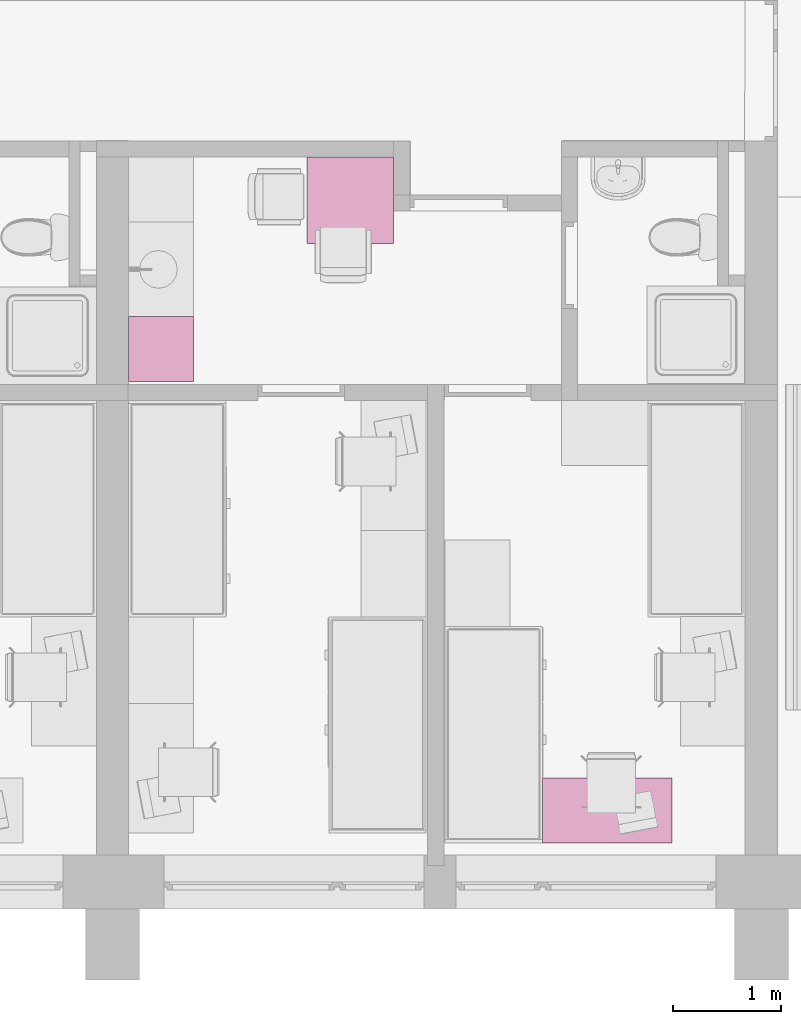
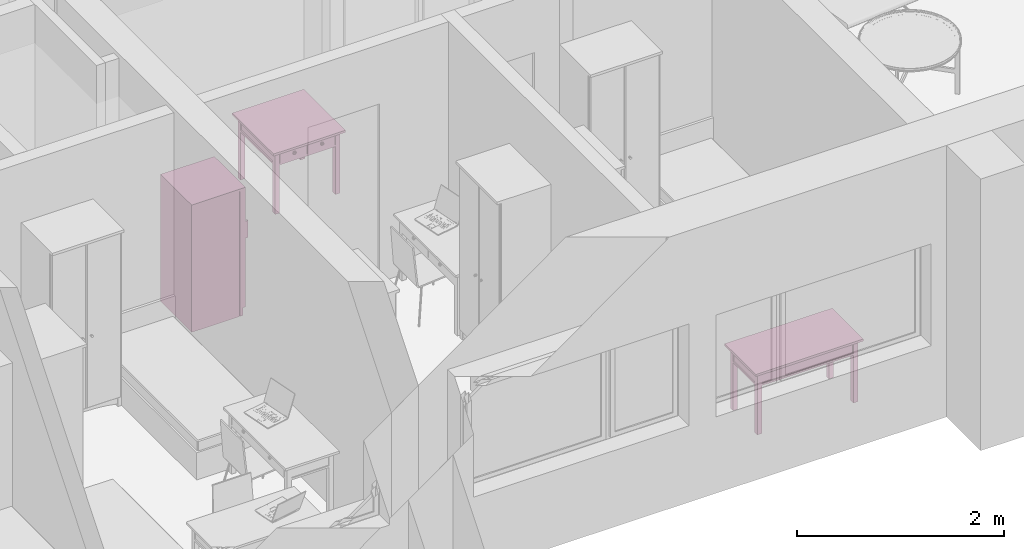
# One storey, part 107 of 165: 3 furnishings.
"""IFC2X3 building model written with IfcOpenShell, lengths in millimetres."""

from ifc_helpers import new_model, entity, si_unit, converted_unit, money_unit, direction, frame, origin_with_axes, place, context, subcontext, project, spatial, open_shell, faceted_brep, surface_model, source, transform, mapped, material, material_list, type_object, element, save


model = new_model("IFC2X3")

# Units and contexts
model_context = context("Model", 3, precision=1e-05, world=origin_with_axes(), true_north=direction((0.0, 1.0)))
body_context = subcontext(model_context, "Body", "Model", "MODEL_VIEW")
ifc_project = project(units=[si_unit("LENGTHUNIT", "METRE", prefix="MILLI"), si_unit("AREAUNIT", "SQUARE_METRE"), si_unit("VOLUMEUNIT", "CUBIC_METRE"), converted_unit("PLANEANGLEUNIT", "DEGREE", entity("IfcPlaneAngleMeasure", 0.0174532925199), si_unit("PLANEANGLEUNIT", "RADIAN"), dimensions=[0, 0, 0, 0, 0, 0, 0]), si_unit("SOLIDANGLEUNIT", "STERADIAN"), money_unit("USD"), converted_unit("TIMEUNIT", "Year", entity("IfcTimeMeasure", 31556926.0), si_unit("TIMEUNIT", "SECOND"), dimensions=[0, 0, 0, 0, 0, 0, 0]), si_unit("MASSUNIT", "GRAM"), si_unit("THERMODYNAMICTEMPERATUREUNIT", "DEGREE_CELSIUS"), si_unit("LUMINOUSINTENSITYUNIT", "LUMEN")], contexts=[model_context])

# Site, building, storey
site_placement = place(None, origin_with_axes())
site = spatial("IfcSite", under=ifc_project, at=site_placement, Name="Site", CompositionType="ELEMENT")
building_placement = place(site_placement, origin_with_axes())
building = spatial("IfcBuilding", under=site, at=building_placement, Name="Building", CompositionType="ELEMENT")
storey_placement = place(building_placement, frame((0.0, 0.0, 6300.0), z_axis=(0.0, 0.0, 1.0), x_axis=(1.0, 0.0, 0.0)))
storey = spatial("IfcBuildingStorey", under=building, at=storey_placement, Name="4KORRUS", CompositionType="ELEMENT", Elevation=6300.0)

# Furnishings
ifc_material = material(Name="Background")
ifc_material_list = material_list([ifc_material])
furnishing_element_type_1 = type_object("IfcFurnishingElementType", Name="Rectangular Table 01 19")
shared_shape_1 = source(origin_with_axes(), body_context, "Body", "Brep", [
    faceted_brep([(90.0, 40.0, 0.0), (40.0, 40.0, 0.0), (40.0, 90.0, 0.0), (90.0, 90.0, 0.0), (90.0, 40.0, 725.0), (40.0, 40.0, 725.0), (40.0, 90.0, 725.0), (90.0, 90.0, 725.0)], [[[0, 1, 2, 3]], [[1, 0, 4, 5]], [[2, 1, 5, 6]], [[3, 2, 6, 7]], [[0, 3, 7, 4]], [[5, 4, 7, 6]]]),
    faceted_brep([(1160.0, 40.0, 0.0), (1110.0, 40.0, 0.0), (1110.0, 90.0, 0.0), (1160.0, 90.0, 0.0), (1160.0, 40.0, 725.0), (1110.0, 40.0, 725.0), (1110.0, 90.0, 725.0), (1160.0, 90.0, 725.0)], [[[0, 1, 2, 3]], [[1, 0, 4, 5]], [[2, 1, 5, 6]], [[3, 2, 6, 7]], [[0, 3, 7, 4]], [[5, 4, 7, 6]]]),
    faceted_brep([(90.0, 510.0, 0.0), (40.0, 510.0, 0.0), (40.0, 560.0, 0.0), (90.0, 560.0, 0.0), (90.0, 510.0, 725.0), (40.0, 510.0, 725.0), (40.0, 560.0, 725.0), (90.0, 560.0, 725.0)], [[[0, 1, 2, 3]], [[1, 0, 4, 5]], [[2, 1, 5, 6]], [[3, 2, 6, 7]], [[0, 3, 7, 4]], [[5, 4, 7, 6]]]),
    faceted_brep([(1160.0, 510.0, 0.0), (1110.0, 510.0, 0.0), (1110.0, 560.0, 0.0), (1160.0, 560.0, 0.0), (1160.0, 510.0, 725.0), (1110.0, 510.0, 725.0), (1110.0, 560.0, 725.0), (1160.0, 560.0, 725.0)], [[[0, 1, 2, 3]], [[1, 0, 4, 5]], [[2, 1, 5, 6]], [[3, 2, 6, 7]], [[0, 3, 7, 4]], [[5, 4, 7, 6]]]),
    faceted_brep([(1160.0, 40.0, 565.0), (40.0, 40.0, 565.0), (40.0, 560.0, 565.0), (1160.0, 560.0, 565.0), (1160.0, 40.0, 585.0), (40.0, 40.0, 585.0), (40.0, 560.0, 585.0), (1160.0, 560.0, 585.0)], [[[0, 1, 2, 3]], [[1, 0, 4, 5]], [[2, 1, 5, 6]], [[3, 2, 6, 7]], [[0, 3, 7, 4]], [[5, 4, 7, 6]]]),
    faceted_brep([(1110.0, 52.5, 585.0), (90.0, 52.5, 585.0), (90.0, 77.5, 585.0), (1110.0, 77.5, 585.0), (1110.0, 52.5, 745.0), (90.0, 52.5, 745.0), (90.0, 77.5, 745.0), (1110.0, 77.5, 745.0)], [[[0, 1, 2, 3]], [[1, 0, 4, 5]], [[2, 1, 5, 6]], [[3, 2, 6, 7]], [[0, 3, 7, 4]], [[5, 4, 7, 6]]]),
    faceted_brep([(77.5, 90.0, 585.0), (52.5, 90.0, 585.0), (52.5, 510.0, 585.0), (77.5, 510.0, 585.0), (77.5, 90.0, 745.0), (52.5, 90.0, 745.0), (52.5, 510.0, 745.0), (77.5, 510.0, 745.0)], [[[0, 1, 2, 3]], [[1, 0, 4, 5]], [[2, 1, 5, 6]], [[3, 2, 6, 7]], [[0, 3, 7, 4]], [[5, 4, 7, 6]]]),
    faceted_brep([(90.0, 547.5, 585.0), (1110.0, 547.5, 585.0), (1110.0, 522.5, 585.0), (90.0, 522.5, 585.0), (90.0, 547.5, 745.0), (1110.0, 547.5, 745.0), (1110.0, 522.5, 745.0), (90.0, 522.5, 745.0)], [[[0, 1, 2, 3]], [[1, 0, 4, 5]], [[2, 1, 5, 6]], [[3, 2, 6, 7]], [[0, 3, 7, 4]], [[5, 4, 7, 6]]]),
    faceted_brep([(1122.5, 510.0, 585.0), (1147.5, 510.0, 585.0), (1147.5, 90.0, 585.0), (1122.5, 90.0, 585.0), (1122.5, 510.0, 745.0), (1147.5, 510.0, 745.0), (1147.5, 90.0, 745.0), (1122.5, 90.0, 745.0)], [[[0, 1, 2, 3]], [[1, 0, 4, 5]], [[2, 1, 5, 6]], [[3, 2, 6, 7]], [[0, 3, 7, 4]], [[5, 4, 7, 6]]]),
    faceted_brep([(597.5, 40.0, 585.0), (95.0, 40.0, 585.0), (95.0, 60.0, 585.0), (597.5, 60.0, 585.0), (597.5, 40.0, 745.0), (95.0, 40.0, 745.0), (95.0, 60.0, 745.0), (597.5, 60.0, 745.0)], [[[0, 1, 2, 3]], [[1, 0, 4, 5]], [[2, 1, 5, 6]], [[3, 2, 6, 7]], [[0, 3, 7, 4]], [[5, 4, 7, 6]]]),
    faceted_brep([(1105.0, 40.0, 585.0), (602.5, 40.0, 585.0), (602.5, 60.0, 585.0), (1105.0, 60.0, 585.0), (1105.0, 40.0, 745.0), (602.5, 40.0, 745.0), (602.5, 60.0, 745.0), (1105.0, 60.0, 745.0)], [[[0, 1, 2, 3]], [[1, 0, 4, 5]], [[2, 1, 5, 6]], [[3, 2, 6, 7]], [[0, 3, 7, 4]], [[5, 4, 7, 6]]]),
    faceted_brep([(354.91, 40.0, 660.0), (351.25, 40.0, 656.34), (346.25, 40.0, 655.0), (341.25, 40.0, 656.34), (337.59, 40.0, 660.0), (336.25, 40.0, 665.0), (337.59, 40.0, 670.0), (341.25, 40.0, 673.66), (346.25, 40.0, 675.0), (351.25, 40.0, 673.66), (354.91, 40.0, 670.0), (356.25, 40.0, 665.0), (354.91, 25.0, 660.0), (351.25, 25.0, 656.34), (346.25, 25.0, 655.0), (341.25, 25.0, 656.34), (337.59, 25.0, 660.0), (336.25, 25.0, 665.0), (337.59, 25.0, 670.0), (341.25, 25.0, 673.66), (346.25, 25.0, 675.0), (351.25, 25.0, 673.66), (354.91, 25.0, 670.0), (356.25, 25.0, 665.0)], [[[0, 1, 2, 3, 4, 5, 6, 7, 8, 9, 10, 11]], [[1, 0, 12, 13]], [[2, 1, 13, 14]], [[3, 2, 14, 15]], [[4, 3, 15, 16]], [[5, 4, 16, 17]], [[6, 5, 17, 18]], [[7, 6, 18, 19]], [[8, 7, 19, 20]], [[9, 8, 20, 21]], [[10, 9, 21, 22]], [[11, 10, 22, 23]], [[0, 11, 23, 12]], [[12, 23, 22, 21, 20, 19, 18, 17, 16, 15, 14, 13]]]),
    faceted_brep([(356.25, 12.01, 665.0), (346.25, 10.0, 665.0), (354.91, 12.01, 660.0), (354.91, 12.01, 670.0), (351.25, 12.01, 656.34), (363.571, 17.5, 665.0), (361.25, 17.5, 656.34), (351.25, 12.01, 673.66), (361.25, 17.5, 673.66), (346.25, 12.01, 655.0), (354.91, 17.5, 650.0), (366.25, 25.0, 665.0), (363.571, 25.0, 655.0), (346.25, 12.01, 675.0), (354.91, 17.5, 680.0), (363.571, 25.0, 675.0), (341.25, 12.01, 656.34), (346.25, 17.5, 647.679), (356.25, 25.0, 647.679), (346.25, 25.0, 645.0), (336.25, 25.0, 647.679), (328.929, 25.0, 655.0), (326.25, 25.0, 665.0), (328.929, 25.0, 675.0), (336.25, 25.0, 682.321), (346.25, 25.0, 685.0), (356.25, 25.0, 682.321), (341.25, 12.01, 673.66), (346.25, 17.5, 682.321), (337.59, 12.01, 660.0), (337.59, 17.5, 650.0), (331.25, 17.5, 656.34), (328.929, 17.5, 665.0), (331.25, 17.5, 673.66), (337.59, 17.5, 680.0), (337.59, 12.01, 670.0), (336.25, 12.01, 665.0)], [[[0, 1, 2]], [[3, 1, 0]], [[2, 1, 4]], [[5, 0, 2, 6]], [[7, 1, 3]], [[8, 3, 0, 5]], [[4, 1, 9]], [[6, 2, 4, 10]], [[11, 5, 6, 12]], [[13, 1, 7]], [[14, 7, 3, 8]], [[15, 8, 5, 11]], [[9, 1, 16]], [[10, 4, 9, 17]], [[12, 6, 10, 18]], [[12, 18, 19, 20, 21, 22, 23, 24, 25, 26, 15, 11]], [[27, 1, 13]], [[28, 13, 7, 14]], [[26, 14, 8, 15]], [[16, 1, 29]], [[17, 9, 16, 30]], [[18, 10, 17, 19]], [[19, 17, 30, 20]], [[20, 30, 31, 21]], [[21, 31, 32, 22]], [[22, 32, 33, 23]], [[23, 33, 34, 24]], [[24, 34, 28, 25]], [[25, 28, 14, 26]], [[35, 1, 27]], [[34, 27, 13, 28]], [[29, 1, 36]], [[30, 16, 29, 31]], [[31, 29, 36, 32]], [[32, 36, 35, 33]], [[33, 35, 27, 34]], [[36, 1, 35]]]),
    faceted_brep([(862.41, 40.0, 660.0), (858.75, 40.0, 656.34), (853.75, 40.0, 655.0), (848.75, 40.0, 656.34), (845.09, 40.0, 660.0), (843.75, 40.0, 665.0), (845.09, 40.0, 670.0), (848.75, 40.0, 673.66), (853.75, 40.0, 675.0), (858.75, 40.0, 673.66), (862.41, 40.0, 670.0), (863.75, 40.0, 665.0), (862.41, 25.0, 660.0), (858.75, 25.0, 656.34), (853.75, 25.0, 655.0), (848.75, 25.0, 656.34), (845.09, 25.0, 660.0), (843.75, 25.0, 665.0), (845.09, 25.0, 670.0), (848.75, 25.0, 673.66), (853.75, 25.0, 675.0), (858.75, 25.0, 673.66), (862.41, 25.0, 670.0), (863.75, 25.0, 665.0)], [[[0, 1, 2, 3, 4, 5, 6, 7, 8, 9, 10, 11]], [[1, 0, 12, 13]], [[2, 1, 13, 14]], [[3, 2, 14, 15]], [[4, 3, 15, 16]], [[5, 4, 16, 17]], [[6, 5, 17, 18]], [[7, 6, 18, 19]], [[8, 7, 19, 20]], [[9, 8, 20, 21]], [[10, 9, 21, 22]], [[11, 10, 22, 23]], [[0, 11, 23, 12]], [[12, 23, 22, 21, 20, 19, 18, 17, 16, 15, 14, 13]]]),
    faceted_brep([(863.75, 12.01, 665.0), (853.75, 10.0, 665.0), (862.41, 12.01, 660.0), (862.41, 12.01, 670.0), (858.75, 12.01, 656.34), (871.071, 17.5, 665.0), (868.75, 17.5, 656.34), (858.75, 12.01, 673.66), (868.75, 17.5, 673.66), (853.75, 12.01, 655.0), (862.41, 17.5, 650.0), (873.75, 25.0, 665.0), (871.071, 25.0, 655.0), (853.75, 12.01, 675.0), (862.41, 17.5, 680.0), (871.071, 25.0, 675.0), (848.75, 12.01, 656.34), (853.75, 17.5, 647.679), (863.75, 25.0, 647.679), (853.75, 25.0, 645.0), (843.75, 25.0, 647.679), (836.429, 25.0, 655.0), (833.75, 25.0, 665.0), (836.429, 25.0, 675.0), (843.75, 25.0, 682.321), (853.75, 25.0, 685.0), (863.75, 25.0, 682.321), (848.75, 12.01, 673.66), (853.75, 17.5, 682.321), (845.09, 12.01, 660.0), (845.09, 17.5, 650.0), (838.75, 17.5, 656.34), (836.429, 17.5, 665.0), (838.75, 17.5, 673.66), (845.09, 17.5, 680.0), (845.09, 12.01, 670.0), (843.75, 12.01, 665.0)], [[[0, 1, 2]], [[3, 1, 0]], [[2, 1, 4]], [[5, 0, 2, 6]], [[7, 1, 3]], [[8, 3, 0, 5]], [[4, 1, 9]], [[6, 2, 4, 10]], [[11, 5, 6, 12]], [[13, 1, 7]], [[14, 7, 3, 8]], [[15, 8, 5, 11]], [[9, 1, 16]], [[10, 4, 9, 17]], [[12, 6, 10, 18]], [[12, 18, 19, 20, 21, 22, 23, 24, 25, 26, 15, 11]], [[27, 1, 13]], [[28, 13, 7, 14]], [[26, 14, 8, 15]], [[16, 1, 29]], [[17, 9, 16, 30]], [[18, 10, 17, 19]], [[19, 17, 30, 20]], [[20, 30, 31, 21]], [[21, 31, 32, 22]], [[22, 32, 33, 23]], [[23, 33, 34, 24]], [[24, 34, 28, 25]], [[25, 28, 14, 26]], [[35, 1, 27]], [[34, 27, 13, 28]], [[29, 1, 36]], [[30, 16, 29, 31]], [[31, 29, 36, 32]], [[32, 36, 35, 33]], [[33, 35, 27, 34]], [[36, 1, 35]]]),
    faceted_brep([(1200.0, 0.0, 725.0), (0.0, 0.0, 725.0), (0.0, 600.0, 725.0), (1200.0, 600.0, 725.0), (1200.0, 0.0, 750.0), (0.0, 0.0, 750.0), (0.0, 600.0, 750.0), (1200.0, 600.0, 750.0)], [[[0, 1, 2, 3]], [[1, 0, 4, 5]], [[2, 1, 5, 6]], [[3, 2, 6, 7]], [[0, 3, 7, 4]], [[5, 4, 7, 6]]]),
])
furnishing_1_placement = place(storey_placement, frame((-12965.2967033, -18929.2398994, 0.0), z_axis=(0.0, 0.0, 1.0), x_axis=(-1.0, 0.0, 0.0)))
element("IfcFurnishingElement", 1, at=furnishing_1_placement, inside=storey, type_object=furnishing_element_type_1, material=ifc_material_list, Name="FU - 011", context=body_context, shape_type="MappedRepresentation", body=[
    mapped(shared_shape_1, transform((0.0, 0.0, 0.0))),
])
shared_shape_2 = source(origin_with_axes(), body_context, "Body", "Brep", [
    faceted_brep([(90.0, 40.0, 0.0), (40.0, 40.0, 0.0), (40.0, 90.0, 0.0), (90.0, 90.0, 0.0), (90.0, 40.0, 725.0), (40.0, 40.0, 725.0), (40.0, 90.0, 725.0), (90.0, 90.0, 725.0)], [[[0, 1, 2, 3]], [[1, 0, 4, 5]], [[2, 1, 5, 6]], [[3, 2, 6, 7]], [[0, 3, 7, 4]], [[5, 4, 7, 6]]]),
    faceted_brep([(760.0, 40.0, 0.0), (710.0, 40.0, 0.0), (710.0, 90.0, 0.0), (760.0, 90.0, 0.0), (760.0, 40.0, 725.0), (710.0, 40.0, 725.0), (710.0, 90.0, 725.0), (760.0, 90.0, 725.0)], [[[0, 1, 2, 3]], [[1, 0, 4, 5]], [[2, 1, 5, 6]], [[3, 2, 6, 7]], [[0, 3, 7, 4]], [[5, 4, 7, 6]]]),
    faceted_brep([(90.0, 710.0, 0.0), (40.0, 710.0, 0.0), (40.0, 760.0, 0.0), (90.0, 760.0, 0.0), (90.0, 710.0, 725.0), (40.0, 710.0, 725.0), (40.0, 760.0, 725.0), (90.0, 760.0, 725.0)], [[[0, 1, 2, 3]], [[1, 0, 4, 5]], [[2, 1, 5, 6]], [[3, 2, 6, 7]], [[0, 3, 7, 4]], [[5, 4, 7, 6]]]),
    faceted_brep([(760.0, 710.0, 0.0), (710.0, 710.0, 0.0), (710.0, 760.0, 0.0), (760.0, 760.0, 0.0), (760.0, 710.0, 725.0), (710.0, 710.0, 725.0), (710.0, 760.0, 725.0), (760.0, 760.0, 725.0)], [[[0, 1, 2, 3]], [[1, 0, 4, 5]], [[2, 1, 5, 6]], [[3, 2, 6, 7]], [[0, 3, 7, 4]], [[5, 4, 7, 6]]]),
    faceted_brep([(760.0, 40.0, 565.0), (40.0, 40.0, 565.0), (40.0, 760.0, 565.0), (760.0, 760.0, 565.0), (760.0, 40.0, 585.0), (40.0, 40.0, 585.0), (40.0, 760.0, 585.0), (760.0, 760.0, 585.0)], [[[0, 1, 2, 3]], [[1, 0, 4, 5]], [[2, 1, 5, 6]], [[3, 2, 6, 7]], [[0, 3, 7, 4]], [[5, 4, 7, 6]]]),
    faceted_brep([(710.0, 52.5, 585.0), (90.0, 52.5, 585.0), (90.0, 77.5, 585.0), (710.0, 77.5, 585.0), (710.0, 52.5, 745.0), (90.0, 52.5, 745.0), (90.0, 77.5, 745.0), (710.0, 77.5, 745.0)], [[[0, 1, 2, 3]], [[1, 0, 4, 5]], [[2, 1, 5, 6]], [[3, 2, 6, 7]], [[0, 3, 7, 4]], [[5, 4, 7, 6]]]),
    faceted_brep([(77.5, 90.0, 585.0), (52.5, 90.0, 585.0), (52.5, 710.0, 585.0), (77.5, 710.0, 585.0), (77.5, 90.0, 745.0), (52.5, 90.0, 745.0), (52.5, 710.0, 745.0), (77.5, 710.0, 745.0)], [[[0, 1, 2, 3]], [[1, 0, 4, 5]], [[2, 1, 5, 6]], [[3, 2, 6, 7]], [[0, 3, 7, 4]], [[5, 4, 7, 6]]]),
    faceted_brep([(90.0, 747.5, 585.0), (710.0, 747.5, 585.0), (710.0, 722.5, 585.0), (90.0, 722.5, 585.0), (90.0, 747.5, 745.0), (710.0, 747.5, 745.0), (710.0, 722.5, 745.0), (90.0, 722.5, 745.0)], [[[0, 1, 2, 3]], [[1, 0, 4, 5]], [[2, 1, 5, 6]], [[3, 2, 6, 7]], [[0, 3, 7, 4]], [[5, 4, 7, 6]]]),
    faceted_brep([(722.5, 710.0, 585.0), (747.5, 710.0, 585.0), (747.5, 90.0, 585.0), (722.5, 90.0, 585.0), (722.5, 710.0, 745.0), (747.5, 710.0, 745.0), (747.5, 90.0, 745.0), (722.5, 90.0, 745.0)], [[[0, 1, 2, 3]], [[1, 0, 4, 5]], [[2, 1, 5, 6]], [[3, 2, 6, 7]], [[0, 3, 7, 4]], [[5, 4, 7, 6]]]),
    faceted_brep([(397.5, 40.0, 585.0), (95.0, 40.0, 585.0), (95.0, 60.0, 585.0), (397.5, 60.0, 585.0), (397.5, 40.0, 745.0), (95.0, 40.0, 745.0), (95.0, 60.0, 745.0), (397.5, 60.0, 745.0)], [[[0, 1, 2, 3]], [[1, 0, 4, 5]], [[2, 1, 5, 6]], [[3, 2, 6, 7]], [[0, 3, 7, 4]], [[5, 4, 7, 6]]]),
    faceted_brep([(705.0, 40.0, 585.0), (402.5, 40.0, 585.0), (402.5, 60.0, 585.0), (705.0, 60.0, 585.0), (705.0, 40.0, 745.0), (402.5, 40.0, 745.0), (402.5, 60.0, 745.0), (705.0, 60.0, 745.0)], [[[0, 1, 2, 3]], [[1, 0, 4, 5]], [[2, 1, 5, 6]], [[3, 2, 6, 7]], [[0, 3, 7, 4]], [[5, 4, 7, 6]]]),
    faceted_brep([(254.91, 40.0, 660.0), (251.25, 40.0, 656.34), (246.25, 40.0, 655.0), (241.25, 40.0, 656.34), (237.59, 40.0, 660.0), (236.25, 40.0, 665.0), (237.59, 40.0, 670.0), (241.25, 40.0, 673.66), (246.25, 40.0, 675.0), (251.25, 40.0, 673.66), (254.91, 40.0, 670.0), (256.25, 40.0, 665.0), (254.91, 25.0, 660.0), (251.25, 25.0, 656.34), (246.25, 25.0, 655.0), (241.25, 25.0, 656.34), (237.59, 25.0, 660.0), (236.25, 25.0, 665.0), (237.59, 25.0, 670.0), (241.25, 25.0, 673.66), (246.25, 25.0, 675.0), (251.25, 25.0, 673.66), (254.91, 25.0, 670.0), (256.25, 25.0, 665.0)], [[[0, 1, 2, 3, 4, 5, 6, 7, 8, 9, 10, 11]], [[1, 0, 12, 13]], [[2, 1, 13, 14]], [[3, 2, 14, 15]], [[4, 3, 15, 16]], [[5, 4, 16, 17]], [[6, 5, 17, 18]], [[7, 6, 18, 19]], [[8, 7, 19, 20]], [[9, 8, 20, 21]], [[10, 9, 21, 22]], [[11, 10, 22, 23]], [[0, 11, 23, 12]], [[12, 23, 22, 21, 20, 19, 18, 17, 16, 15, 14, 13]]]),
    faceted_brep([(256.25, 12.01, 665.0), (246.25, 10.0, 665.0), (254.91, 12.01, 660.0), (254.91, 12.01, 670.0), (251.25, 12.01, 656.34), (263.571, 17.5, 665.0), (261.25, 17.5, 656.34), (251.25, 12.01, 673.66), (261.25, 17.5, 673.66), (246.25, 12.01, 655.0), (254.91, 17.5, 650.0), (266.25, 25.0, 665.0), (263.571, 25.0, 655.0), (246.25, 12.01, 675.0), (254.91, 17.5, 680.0), (263.571, 25.0, 675.0), (241.25, 12.01, 656.34), (246.25, 17.5, 647.679), (256.25, 25.0, 647.679), (246.25, 25.0, 645.0), (236.25, 25.0, 647.679), (228.929, 25.0, 655.0), (226.25, 25.0, 665.0), (228.929, 25.0, 675.0), (236.25, 25.0, 682.321), (246.25, 25.0, 685.0), (256.25, 25.0, 682.321), (241.25, 12.01, 673.66), (246.25, 17.5, 682.321), (237.59, 12.01, 660.0), (237.59, 17.5, 650.0), (231.25, 17.5, 656.34), (228.929, 17.5, 665.0), (231.25, 17.5, 673.66), (237.59, 17.5, 680.0), (237.59, 12.01, 670.0), (236.25, 12.01, 665.0)], [[[0, 1, 2]], [[3, 1, 0]], [[2, 1, 4]], [[5, 0, 2, 6]], [[7, 1, 3]], [[8, 3, 0, 5]], [[4, 1, 9]], [[6, 2, 4, 10]], [[11, 5, 6, 12]], [[13, 1, 7]], [[14, 7, 3, 8]], [[15, 8, 5, 11]], [[9, 1, 16]], [[10, 4, 9, 17]], [[12, 6, 10, 18]], [[12, 18, 19, 20, 21, 22, 23, 24, 25, 26, 15, 11]], [[27, 1, 13]], [[28, 13, 7, 14]], [[26, 14, 8, 15]], [[16, 1, 29]], [[17, 9, 16, 30]], [[18, 10, 17, 19]], [[19, 17, 30, 20]], [[20, 30, 31, 21]], [[21, 31, 32, 22]], [[22, 32, 33, 23]], [[23, 33, 34, 24]], [[24, 34, 28, 25]], [[25, 28, 14, 26]], [[35, 1, 27]], [[34, 27, 13, 28]], [[29, 1, 36]], [[30, 16, 29, 31]], [[31, 29, 36, 32]], [[32, 36, 35, 33]], [[33, 35, 27, 34]], [[36, 1, 35]]]),
    faceted_brep([(562.41, 40.0, 660.0), (558.75, 40.0, 656.34), (553.75, 40.0, 655.0), (548.75, 40.0, 656.34), (545.09, 40.0, 660.0), (543.75, 40.0, 665.0), (545.09, 40.0, 670.0), (548.75, 40.0, 673.66), (553.75, 40.0, 675.0), (558.75, 40.0, 673.66), (562.41, 40.0, 670.0), (563.75, 40.0, 665.0), (562.41, 25.0, 660.0), (558.75, 25.0, 656.34), (553.75, 25.0, 655.0), (548.75, 25.0, 656.34), (545.09, 25.0, 660.0), (543.75, 25.0, 665.0), (545.09, 25.0, 670.0), (548.75, 25.0, 673.66), (553.75, 25.0, 675.0), (558.75, 25.0, 673.66), (562.41, 25.0, 670.0), (563.75, 25.0, 665.0)], [[[0, 1, 2, 3, 4, 5, 6, 7, 8, 9, 10, 11]], [[1, 0, 12, 13]], [[2, 1, 13, 14]], [[3, 2, 14, 15]], [[4, 3, 15, 16]], [[5, 4, 16, 17]], [[6, 5, 17, 18]], [[7, 6, 18, 19]], [[8, 7, 19, 20]], [[9, 8, 20, 21]], [[10, 9, 21, 22]], [[11, 10, 22, 23]], [[0, 11, 23, 12]], [[12, 23, 22, 21, 20, 19, 18, 17, 16, 15, 14, 13]]]),
    faceted_brep([(563.75, 12.01, 665.0), (553.75, 10.0, 665.0), (562.41, 12.01, 660.0), (562.41, 12.01, 670.0), (558.75, 12.01, 656.34), (571.071, 17.5, 665.0), (568.75, 17.5, 656.34), (558.75, 12.01, 673.66), (568.75, 17.5, 673.66), (553.75, 12.01, 655.0), (562.41, 17.5, 650.0), (573.75, 25.0, 665.0), (571.071, 25.0, 655.0), (553.75, 12.01, 675.0), (562.41, 17.5, 680.0), (571.071, 25.0, 675.0), (548.75, 12.01, 656.34), (553.75, 17.5, 647.679), (563.75, 25.0, 647.679), (553.75, 25.0, 645.0), (543.75, 25.0, 647.679), (536.429, 25.0, 655.0), (533.75, 25.0, 665.0), (536.429, 25.0, 675.0), (543.75, 25.0, 682.321), (553.75, 25.0, 685.0), (563.75, 25.0, 682.321), (548.75, 12.01, 673.66), (553.75, 17.5, 682.321), (545.09, 12.01, 660.0), (545.09, 17.5, 650.0), (538.75, 17.5, 656.34), (536.429, 17.5, 665.0), (538.75, 17.5, 673.66), (545.09, 17.5, 680.0), (545.09, 12.01, 670.0), (543.75, 12.01, 665.0)], [[[0, 1, 2]], [[3, 1, 0]], [[2, 1, 4]], [[5, 0, 2, 6]], [[7, 1, 3]], [[8, 3, 0, 5]], [[4, 1, 9]], [[6, 2, 4, 10]], [[11, 5, 6, 12]], [[13, 1, 7]], [[14, 7, 3, 8]], [[15, 8, 5, 11]], [[9, 1, 16]], [[10, 4, 9, 17]], [[12, 6, 10, 18]], [[12, 18, 19, 20, 21, 22, 23, 24, 25, 26, 15, 11]], [[27, 1, 13]], [[28, 13, 7, 14]], [[26, 14, 8, 15]], [[16, 1, 29]], [[17, 9, 16, 30]], [[18, 10, 17, 19]], [[19, 17, 30, 20]], [[20, 30, 31, 21]], [[21, 31, 32, 22]], [[22, 32, 33, 23]], [[23, 33, 34, 24]], [[24, 34, 28, 25]], [[25, 28, 14, 26]], [[35, 1, 27]], [[34, 27, 13, 28]], [[29, 1, 36]], [[30, 16, 29, 31]], [[31, 29, 36, 32]], [[32, 36, 35, 33]], [[33, 35, 27, 34]], [[36, 1, 35]]]),
    faceted_brep([(800.0, 0.0, 725.0), (0.0, 0.0, 725.0), (0.0, 800.0, 725.0), (800.0, 800.0, 725.0), (800.0, 0.0, 750.0), (0.0, 0.0, 750.0), (0.0, 800.0, 750.0), (800.0, 800.0, 750.0)], [[[0, 1, 2, 3]], [[1, 0, 4, 5]], [[2, 1, 5, 6]], [[3, 2, 6, 7]], [[0, 3, 7, 4]], [[5, 4, 7, 6]]]),
])
furnishing_2_placement = place(storey_placement, frame((-16340.1507637, -13989.2398994, 0.0), z_axis=(0.0, 0.0, 1.0), x_axis=(1.0, 0.0, 0.0)))
element("IfcFurnishingElement", 2, at=furnishing_2_placement, inside=storey, type_object=furnishing_element_type_1, material=ifc_material_list, Name="FU - 011", context=body_context, shape_type="MappedRepresentation", body=[
    mapped(shared_shape_2, transform((0.0, 0.0, 0.0))),
])
furnishing_element_type_2 = type_object("IfcFurnishingElementType", Name="Refrigerator 19")
shared_shape_3 = source(origin_with_axes(), body_context, "Body", "SurfaceModel", [
    faceted_brep([(0.0, 0.0, 1475.0), (0.0, 0.0, 1500.0), (-600.0, 0.0, 1500.0), (-600.0, 0.0, 1475.0), (0.0, 600.0, 1475.0), (0.0, 600.0, 1500.0), (-600.0, 600.0, 1500.0), (-600.0, 600.0, 1475.0)], [[[0, 1, 2, 3]], [[4, 5, 1, 0]], [[1, 5, 6, 2]], [[3, 2, 6, 7]], [[0, 3, 7, 4]], [[7, 6, 5, 4]]]),
    faceted_brep([(0.0, 65.0, 0.0), (0.0, 65.0, 1475.0), (-600.0, 65.0, 1475.0), (-600.0, 65.0, 0.0), (0.0, 600.0, 0.0), (0.0, 600.0, 1475.0), (-600.0, 600.0, 1475.0), (-600.0, 600.0, 0.0)], [[[0, 1, 2, 3]], [[4, 5, 1, 0]], [[1, 5, 6, 2]], [[3, 2, 6, 7]], [[0, 3, 7, 4]], [[7, 6, 5, 4]]]),
    faceted_brep([(0.0, 30.0, 0.0), (0.0, 30.0, 90.0), (-600.0, 30.0, 90.0), (-600.0, 30.0, 0.0), (0.0, 60.0, 0.0), (0.0, 60.0, 90.0), (-600.0, 60.0, 90.0), (-600.0, 60.0, 0.0)], [[[0, 1, 2, 3]], [[4, 5, 1, 0]], [[1, 5, 6, 2]], [[3, 2, 6, 7]], [[0, 3, 7, 4]], [[7, 6, 5, 4]]]),
    faceted_brep([(0.0, 60.0, 90.0), (0.0, 0.0, 90.0), (-600.0, 0.0, 90.0), (-600.0, 60.0, 90.0), (0.0, 60.0, 1474.5), (0.0, 0.0, 1474.5), (-600.0, 0.0, 1474.5), (-600.0, 60.0, 1474.5)], [[[0, 1, 2, 3]], [[4, 5, 1, 0]], [[1, 5, 6, 2]], [[3, 2, 6, 7]], [[0, 3, 7, 4]], [[7, 6, 5, 4]]]),
    surface_model("IfcShellBasedSurfaceModel", [(-600.0, -30.0, 900.0), (-600.0, 0.0, 900.0), (-600.0, 0.0, 1100.0), (-600.0, -30.0, 1100.0)], [open_shell([[[0, 1, 2, 3]]])]),
    surface_model("IfcShellBasedSurfaceModel", [(-600.0, -30.0, 900.0), (-570.0, -30.0, 900.0), (-570.0, -30.0, 1100.0), (-600.0, -30.0, 1100.0)], [open_shell([[[0, 1, 2, 3]]])]),
])
furnishing_3_placement = place(storey_placement, frame((-17390.2967033, -14664.7705299, 0.0), z_axis=(0.0, 0.0, 1.0), x_axis=(0.0, 1.0, 0.0)))
element("IfcFurnishingElement", 3, at=furnishing_3_placement, inside=storey, type_object=furnishing_element_type_2, material=ifc_material_list, Name="FU - 007", context=body_context, shape_type="MappedRepresentation", body=[
    mapped(shared_shape_3, transform((0.0, 0.0, 0.0))),
])

save(model, "model.ifc")
